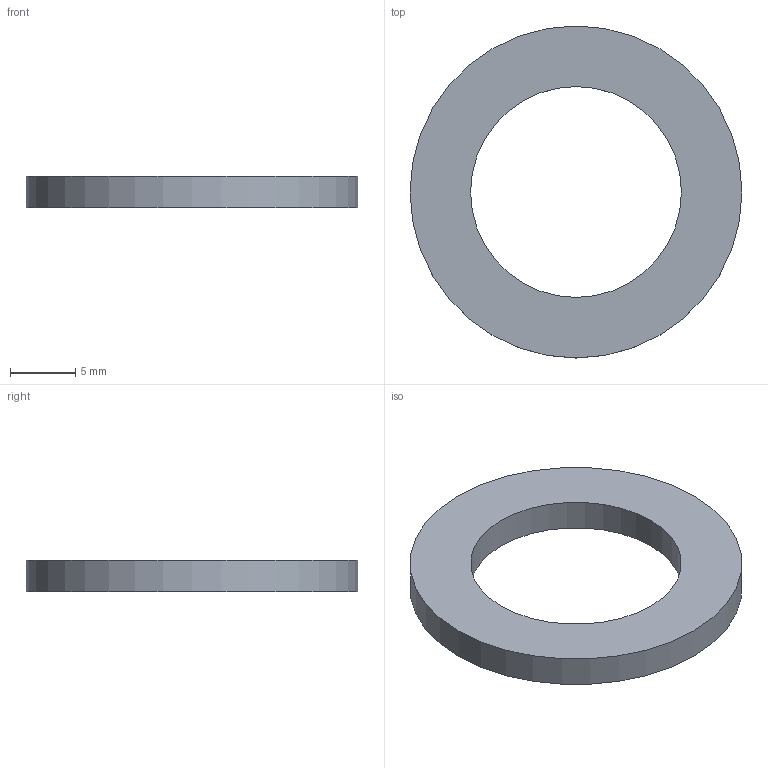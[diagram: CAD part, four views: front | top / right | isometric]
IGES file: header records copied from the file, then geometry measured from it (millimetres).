
Global section: file name: No Iges File Name specified; native system: AutoDesk Inventor R6.0; preprocessor: AutoDesk Inventor Iges Exporter R6.0; author: No Author specified; organization: No Organization specified; date: 20080121.075233; units: inch
Bounding box: 25.4 x 25.4 x 2.39 mm (x, y, z)
Surface area: 916.3 mm2 (no closed solid volume)
Topology: 0 solids, 0 shells, 4 faces, 10 edges, 8 vertices
Faces by surface type: revolution 2, plane 2
